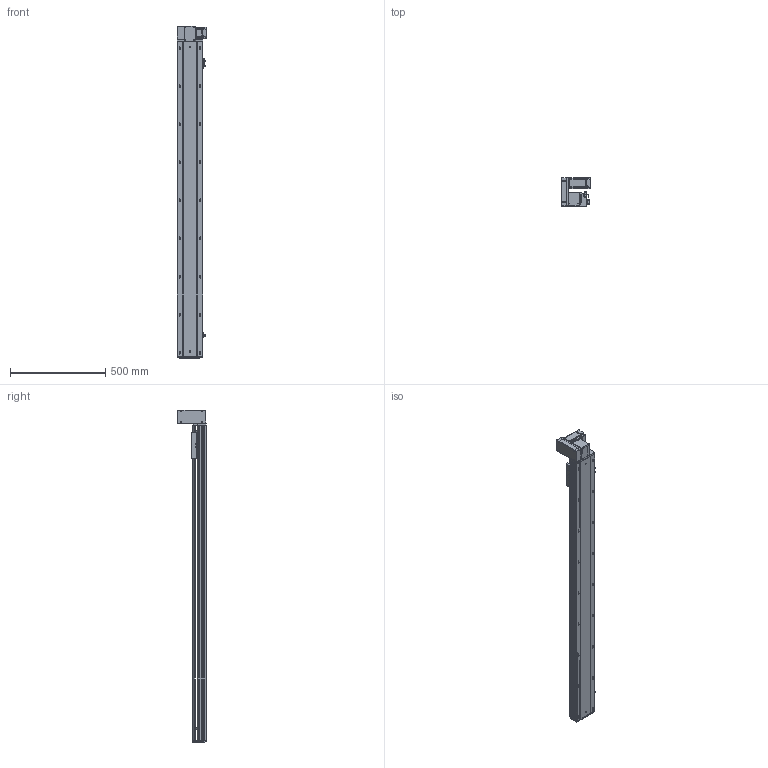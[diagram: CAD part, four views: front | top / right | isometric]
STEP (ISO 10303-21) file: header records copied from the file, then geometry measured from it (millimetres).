
FILE_DESCRIPTION (( 'STEP AP203' ), '1' );
FILE_NAME ('RY140-T-300-UL.SLDASM_1400.step', '2021-03-01T07:44:24', ( '盈信电脑' ), ( '东莞市道滘镇水果街19号' ), 'SwSTEP 2.0', 'SolidWorks 2012', '' );
FILE_SCHEMA (( 'CONFIG_CONTROL_DESIGN' ));
Length unit declared in the file: millimetre
Products named in the file (18): RY140-T-300-UL.SLDASM_1400; RY140-T翋肮謫裔啣; RY120-T主同步轮轴承压盖; 滅袉蝶18-10; RY120-T蹟翐M4; RY140-T萇儂欶; 15; RY140-T翋肮祭謫盓傅釱; 侂狟400W侜督萇儂; RY140-T萇儂假蚾啣; RY120外置感应片(140共用）; RY120-T肮祭湍揤踡輸1; RY120-T肮祭湍揤踡輸2; RY140綴裔啣; RY140-T-300-DL倰第奻裔啣_1400; RY140肮祭謫臏賑輸; 覜茼ん672; RY140-T-300-DL倰第菁釱_1400
Assembly tree (23 placements, depth 3):
  RY140-T-300-UL.SLDASM_1400
    RY140-T-300-DL倰第菁釱_1400
    RY140肮祭謫臏賑輸
    RY140-T-300-DL倰第奻裔啣_1400
    RY140綴裔啣
    覜茼ん672  x3
    RY120外置感应片(140共用）
    RY120-T肮祭湍揤踡輸2
    RY120-T肮祭湍揤踡輸1
    RY140-T翋肮祭謫盓傅釱
    RY140-T萇儂假蚾啣
    侂狟400W侜督萇儂
      15
    RY120-T主同步轮轴承压盖
    RY120-T蹟翐M4  x4
    RY140-T萇儂欶
    滅袉蝶18-10  x2
    RY140-T翋肮謫裔啣
Bounding box: 157 x 152.5 x 1746 mm (x, y, z)
Volume: 4953832.9 mm3; surface area: 1914724.7 mm2
Topology: 22 solids, 22 shells, 2755 faces, 7549 edges, 4826 vertices
Faces by surface type: plane 1385, cylinder 1024, cone 246, bspline 100
Entity records: 87091 total; most frequent: CARTESIAN_POINT 21191, ORIENTED_EDGE 13530, DIRECTION 12901, EDGE_CURVE 6765, VERTEX_POINT 4425, AXIS2_PLACEMENT_3D 4304, LINE 4293, VECTOR 4293
